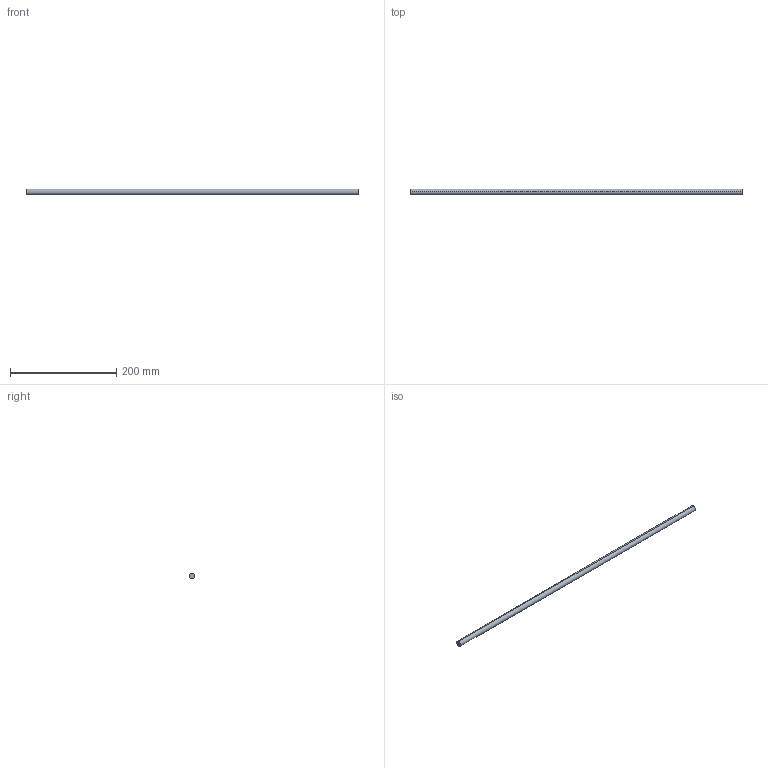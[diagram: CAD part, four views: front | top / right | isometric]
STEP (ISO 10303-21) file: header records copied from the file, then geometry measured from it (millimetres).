
FILE_DESCRIPTION (( 'STEP AP214' ), '1' );
FILE_NAME ('Querreling_2S-Rel_7102_25mm-Halter_KAB-750.step', '2010-09-22T15:06:06', ( 'grass' ), ( '' ), 'SwSTEP 2.0', 'SolidWorks 2010', '' );
FILE_SCHEMA (( 'AUTOMOTIVE_DESIGN' ));
Length unit declared in the file: millimetre
Products named in the file (1): Querreling_2S-Rel_7102_25mm-Halter_KAB-750
Bounding box: 624 x 11 x 11 mm (x, y, z)
Volume: 59300.7 mm3; surface area: 21754 mm2
Topology: 1 solids, 1 shells, 4 faces, 6 edges, 4 vertices
Faces by surface type: cylinder 2, plane 2
Entity records: 128 total; most frequent: DIRECTION 20, CARTESIAN_POINT 15, ORIENTED_EDGE 12, AXIS2_PLACEMENT_3D 9, EDGE_CURVE 6, EDGE_LOOP 4, CIRCLE 4, FACE_OUTER_BOUND 4
